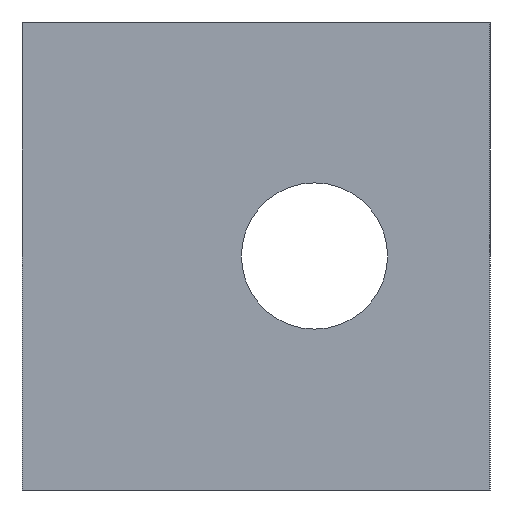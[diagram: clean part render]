
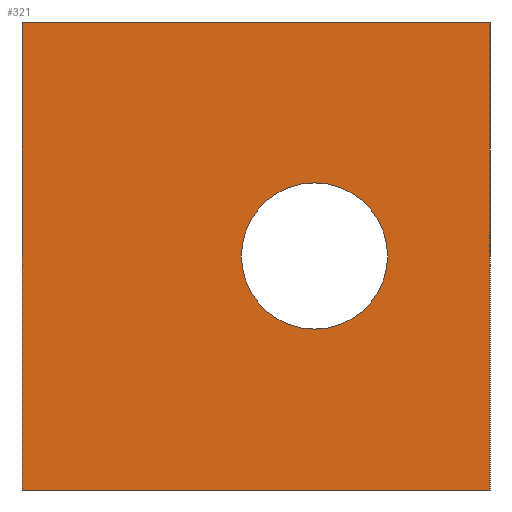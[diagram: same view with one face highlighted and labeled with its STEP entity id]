
A CAD part, front view. The second image highlights one B-rep face of the part: STEP entity #321.
In plain terms, the highlighted planar face has unit normal (0, -1, 0).
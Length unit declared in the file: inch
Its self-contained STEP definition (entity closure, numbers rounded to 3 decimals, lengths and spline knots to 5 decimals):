
#24 = ORIENTED_EDGE ( 'NONE', *, *, #507, .F. ) ;
#31 = CARTESIAN_POINT ( 'NONE',  ( -0.0625, 0., 0. ) ) ;
#55 = EDGE_LOOP ( 'NONE', ( #661, #200 ) ) ;
#80 = CARTESIAN_POINT ( 'NONE',  ( 1., 0., 1. ) ) ;
#86 = CARTESIAN_POINT ( 'NONE',  ( -1., 0., 1. ) ) ;
#89 = LINE ( 'NONE', #674, #424 ) ;
#93 = CARTESIAN_POINT ( 'NONE',  ( 0.5625, 0., 0. ) ) ;
#97 = VERTEX_POINT ( 'NONE', #196 ) ;
#107 = CARTESIAN_POINT ( 'NONE',  ( 0.25, 0., 0. ) ) ;
#114 = CARTESIAN_POINT ( 'NONE',  ( -1., 0., -1. ) ) ;
#115 = EDGE_CURVE ( 'NONE', #577, #685, #508, .T. ) ;
#133 = VECTOR ( 'NONE', #289, 39.37008 ) ;
#152 = VECTOR ( 'NONE', #451, 39.37008 ) ;
#173 = DIRECTION ( 'NONE',  ( -1., 0., 0. ) ) ;
#176 = DIRECTION ( 'NONE',  ( -1., 0., 0. ) ) ;
#196 = CARTESIAN_POINT ( 'NONE',  ( 1., 0., -1. ) ) ;
#200 = ORIENTED_EDGE ( 'NONE', *, *, #590, .T. ) ;
#210 = ORIENTED_EDGE ( 'NONE', *, *, #547, .F. ) ;
#224 = CIRCLE ( 'NONE', #583, 0.3125 ) ;
#236 = DIRECTION ( 'NONE',  ( 0., 1., 0. ) ) ;
#259 = ORIENTED_EDGE ( 'NONE', *, *, #115, .F. ) ;
#287 = CARTESIAN_POINT ( 'NONE',  ( -1., 0., -1. ) ) ;
#289 = DIRECTION ( 'NONE',  ( 1., 0., 0. ) ) ;
#309 = VERTEX_POINT ( 'NONE', #80 ) ;
#315 = CARTESIAN_POINT ( 'NONE',  ( -1., 0., 1. ) ) ;
#321 = ADVANCED_FACE ( 'NONE', ( #659, #471 ), #602, .T. ) ;
#343 = DIRECTION ( 'NONE',  ( 0., -1., 0. ) ) ;
#357 = AXIS2_PLACEMENT_3D ( 'NONE', #107, #557, #176 ) ;
#424 = VECTOR ( 'NONE', #428, 39.37008 ) ;
#428 = DIRECTION ( 'NONE',  ( 0., 0., -1. ) ) ;
#435 = CIRCLE ( 'NONE', #357, 0.3125 ) ;
#451 = DIRECTION ( 'NONE',  ( 0., 0., 1. ) ) ;
#471 = FACE_OUTER_BOUND ( 'NONE', #620, .T. ) ;
#507 = EDGE_CURVE ( 'NONE', #685, #309, #665, .T. ) ;
#508 = LINE ( 'NONE', #315, #152 ) ;
#512 = VERTEX_POINT ( 'NONE', #93 ) ;
#526 = CARTESIAN_POINT ( 'NONE',  ( 0., 0., 0. ) ) ;
#533 = AXIS2_PLACEMENT_3D ( 'NONE', #526, #343, #724 ) ;
#547 = EDGE_CURVE ( 'NONE', #309, #97, #89, .T. ) ;
#557 = DIRECTION ( 'NONE',  ( 0., 1., 0. ) ) ;
#577 = VERTEX_POINT ( 'NONE', #114 ) ;
#583 = AXIS2_PLACEMENT_3D ( 'NONE', #688, #236, #173 ) ;
#590 = EDGE_CURVE ( 'NONE', #512, #703, #224, .T. ) ;
#594 = VECTOR ( 'NONE', #741, 39.37008 ) ;
#602 = PLANE ( 'NONE',  #533 ) ;
#615 = LINE ( 'NONE', #287, #594 ) ;
#620 = EDGE_LOOP ( 'NONE', ( #210, #24, #259, #781 ) ) ;
#659 = FACE_BOUND ( 'NONE', #55, .T. ) ;
#661 = ORIENTED_EDGE ( 'NONE', *, *, #763, .T. ) ;
#665 = LINE ( 'NONE', #86, #133 ) ;
#674 = CARTESIAN_POINT ( 'NONE',  ( 1., 0., 1. ) ) ;
#685 = VERTEX_POINT ( 'NONE', #738 ) ;
#688 = CARTESIAN_POINT ( 'NONE',  ( 0.25, 0., 0. ) ) ;
#703 = VERTEX_POINT ( 'NONE', #31 ) ;
#724 = DIRECTION ( 'NONE',  ( 0., 0., -1. ) ) ;
#737 = EDGE_CURVE ( 'NONE', #97, #577, #615, .T. ) ;
#738 = CARTESIAN_POINT ( 'NONE',  ( -1., 0., 1. ) ) ;
#741 = DIRECTION ( 'NONE',  ( -1., 0., 0. ) ) ;
#763 = EDGE_CURVE ( 'NONE', #703, #512, #435, .T. ) ;
#781 = ORIENTED_EDGE ( 'NONE', *, *, #737, .F. ) ;
